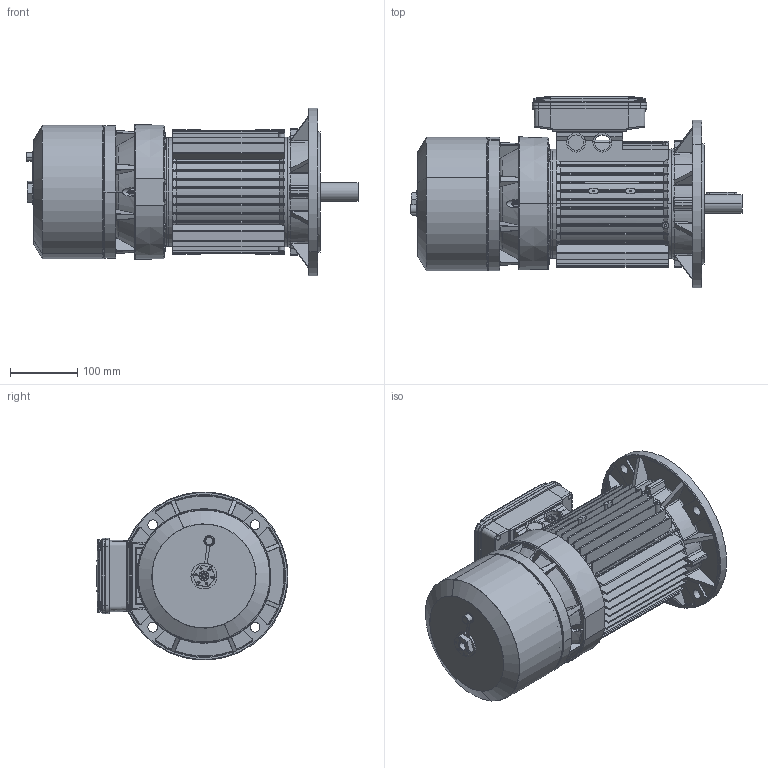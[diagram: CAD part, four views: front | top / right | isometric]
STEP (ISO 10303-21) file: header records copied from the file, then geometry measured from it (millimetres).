
FILE_DESCRIPTION (( 'STEP AP214' ), '1' );
FILE_NAME ('M02GB0010.STEP', '2018-10-18T08:13:26', ( '' ), ( '' ), 'SwSTEP 2.0', 'SolidWorks 2018', '' );
FILE_SCHEMA (( 'AUTOMOTIVE_DESIGN' ));
Length unit declared in the file: millimetre
Products named in the file (15): Vite a Testa Esagona con foro e tappo 71-112 - Modificata; Scudo a flangia B5 Fi 250 BA-BM 100 - DEAA0094; Chiavetta 100-112; Cuffia serie BA 100; Convogliatore con pista d''attrito P2 BA 100 - DEAF0295; Scudo Lato Freno BA 100 P1 - DEAE0194; Albero BA 100; Carcassa 100 B5; M02GB0010; Scatola per Morsettiera Doppia 90-100-112 - Completa; Guarnizione Coperchio Semplice Scatola BA 90 100 112 - DDAL0094; Vite  a testa bombata M4x16; Coperchio per Scatola per Morsettiera Doppia 90-100-112; Scatola per Morsettiera Doppia 90-100-112; O-ring freno BA 100
Assembly tree (17 placements, depth 3):
  M02GB0010
    Carcassa 100 B5
    Albero BA 100
    Scudo Lato Freno BA 100 P1 - DEAE0194
    Convogliatore con pista d''attrito P2 BA 100 - DEAF0295
    Cuffia serie BA 100
    Chiavetta 100-112
    Scudo a flangia B5 Fi 250 BA-BM 100 - DEAA0094
    Vite a Testa Esagona con foro e tappo 71-112 - Modificata
    O-ring freno BA 100
    Scatola per Morsettiera Doppia 90-100-112 - Completa
      Scatola per Morsettiera Doppia 90-100-112
      Coperchio per Scatola per Morsettiera Doppia 90-100-112
      Vite  a testa bombata M4x16  x4
      Guarnizione Coperchio Semplice Scatola BA 90 100 112 - DDAL0094
Bounding box: 493.18 x 284.52 x 249.05 mm (x, y, z)
Volume: 2487323.6 mm3; surface area: 1259215 mm2
Topology: 16 solids, 16 shells, 3207 faces, 8801 edges, 5611 vertices
Faces by surface type: cylinder 1183, plane 1039, torus 452, cone 344, bspline 181, sphere 8
Entity records: 114906 total; most frequent: CARTESIAN_POINT 38137, ORIENTED_EDGE 16694, DIRECTION 14899, EDGE_CURVE 8347, AXIS2_PLACEMENT_3D 5746, VERTEX_POINT 5383, LINE 3407, VECTOR 3407
